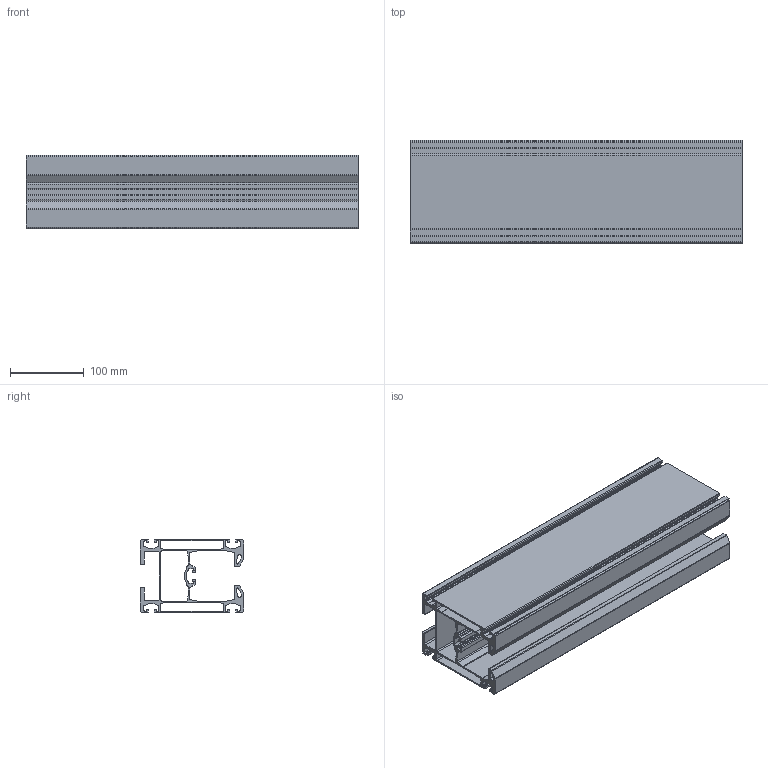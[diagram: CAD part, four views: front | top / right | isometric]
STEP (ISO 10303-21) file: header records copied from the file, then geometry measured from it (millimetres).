
FILE_DESCRIPTION (( 'STEP AP203' ), '1' );
FILE_NAME ('M-140.STEP', '2020-11-11T11:28:50', ( '' ), ( '' ), 'SwSTEP 2.0', 'SolidWorks 2017', '' );
FILE_SCHEMA (( 'CONFIG_CONTROL_DESIGN' ));
Length unit declared in the file: millimetre
Products named in the file (1): M-140
Bounding box: 450 x 140 x 100 mm (x, y, z)
Volume: 1237578.8 mm3; surface area: 779105.1 mm2
Topology: 1 solids, 1 shells, 302 faces, 900 edges, 600 vertices
Faces by surface type: cylinder 154, plane 148
Entity records: 10329 total; most frequent: DIRECTION 1814, CARTESIAN_POINT 1803, ORIENTED_EDGE 1800, EDGE_CURVE 900, AXIS2_PLACEMENT_3D 611, VERTEX_POINT 600, VECTOR 592, LINE 592
